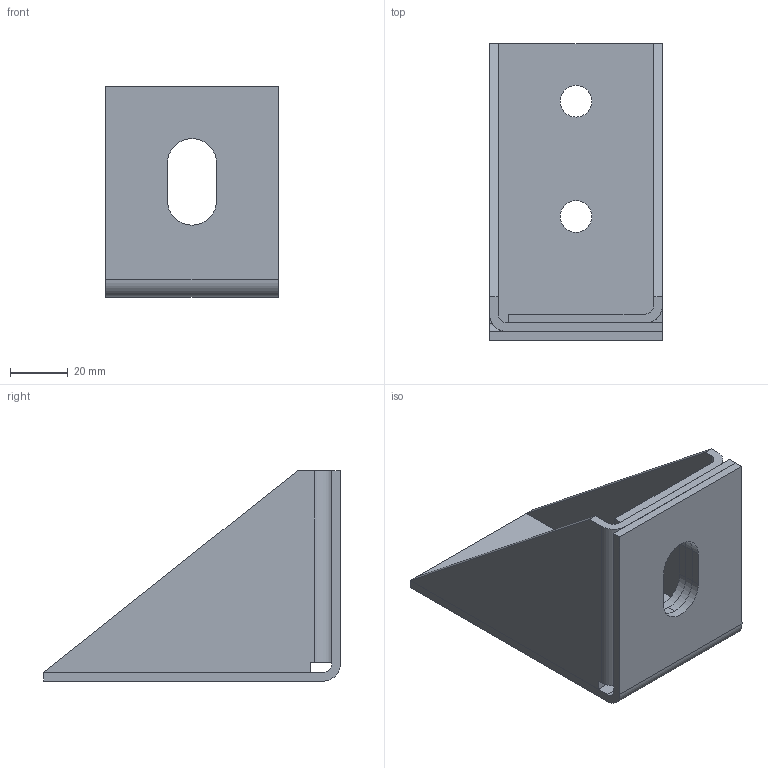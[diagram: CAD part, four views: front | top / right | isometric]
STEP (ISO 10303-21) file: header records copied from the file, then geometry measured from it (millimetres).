
FILE_DESCRIPTION (( 'STEP AP203' ), '1' );
FILE_NAME ('11090342.STEP', '2020-04-02T13:56:35', ( '' ), ( '' ), 'SwSTEP 2.0', 'SolidWorks 2013', '' );
FILE_SCHEMA (( 'CONFIG_CONTROL_DESIGN' ));
Length unit declared in the file: millimetre
Products named in the file (5): Seitenteil_rechts; Fußwinkel_Hauptplatine; 11090342; Flicken; Seitenteil_links
Assembly tree (3 placements, depth 2):
  11090342
    Seitenteil_links
    Fußwinkel_Hauptplatine
    Seitenteil_rechts
  Flicken
Bounding box: 60 x 103 x 73 mm (x, y, z)
Volume: 69598.4 mm3; surface area: 51077.9 mm2
Topology: 3 solids, 3 shells, 51 faces, 135 edges, 90 vertices
Faces by surface type: plane 34, cylinder 17
Entity records: 2091 total; most frequent: DIRECTION 283, CARTESIAN_POINT 282, ORIENTED_EDGE 270, EDGE_CURVE 135, LINE 101, VECTOR 101, AXIS2_PLACEMENT_3D 91, VERTEX_POINT 90
